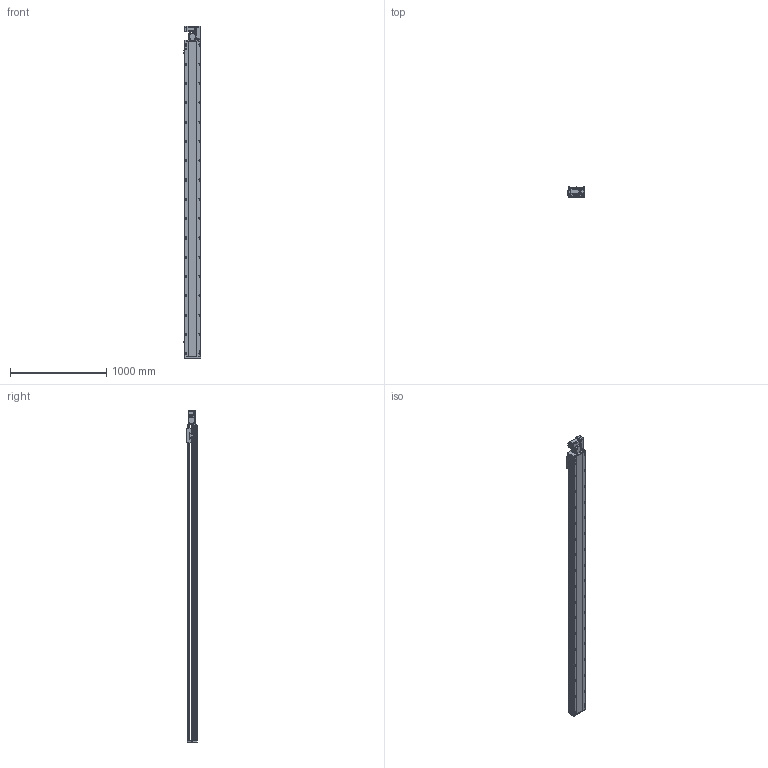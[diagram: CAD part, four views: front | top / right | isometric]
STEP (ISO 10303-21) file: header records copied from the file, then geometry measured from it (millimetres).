
FILE_DESCRIPTION (( 'STEP AP214' ), '1' );
FILE_NAME ('RTB17S-XX-3000-R-M40-C4.STEP', '2025-12-11T07:57:37', ( '' ), ( '' ), 'SwSTEP 2.0', 'SolidWorks 2018', '' );
FILE_SCHEMA (( 'AUTOMOTIVE_DESIGN' ));
Length unit declared in the file: millimetre
Products named in the file (14): RTB14-L-018P^RTB17S-R-々湍釱蚾饜-400W_RTB17S-XX-XX-R-M40-C4; RTH13-BL-012覜茼え俋离^RTB17S-XX-XX-R-M40-C4; RTB14-L-005P--轴承塑胶压盖^RTB17S-R-皮带座装配-400W_RTB17S-XX-XX-R-M40-C4; RTB14-L-008-M20--萇儂啣^RTB17S-R-々湍釱蚾饜-400W_RTB17S-XX-XX-R-M40-C4; RTB17S-L-014-T20--々湍釱^RTB17S-R-々湍釱蚾饜-400W_RTB17S-XX-XX-R-M40-C4; RTB17S-L-004佪裝蹟譫蟀諉釱^RTB17S-XX-XX-R-M40-C4; RTB17-R-011菁釱^RTB17S-XX-XX-R-M40-C4; RTB14-L-017P^RTB17S-R-々湍釱蚾饜-400W_RTB17S-XX-XX-R-M40-C4; RTB17S-L-001耜醱啣^RTB17S-XX-XX-R-M40-C4; RTB17S-L-007奻裔^RTB17S-XX-XX-R-M40-C4; OMRON EE-SX672 传感器^RTB17S-XX-XX-R-M40-C4; RTB17S-XX-3000-R-M40-C4; 400W侜督萇儂^RTB17S-XX-XX-R-M40-C4; RTB17S-R-々湍釱蚾饜-400W^RTB17S-XX-XX-R-M40-C4
Assembly tree (16 placements, depth 3):
  RTB17S-XX-3000-R-M40-C4
    RTB17-R-011菁釱^RTB17S-XX-XX-R-M40-C4
    RTB17S-L-007奻裔^RTB17S-XX-XX-R-M40-C4
    OMRON EE-SX672 传感器^RTB17S-XX-XX-R-M40-C4  x3
    RTB17S-L-001耜醱啣^RTB17S-XX-XX-R-M40-C4
    400W侜督萇儂^RTB17S-XX-XX-R-M40-C4
    RTB17S-L-004佪裝蹟譫蟀諉釱^RTB17S-XX-XX-R-M40-C4
    RTH13-BL-012覜茼え俋离^RTB17S-XX-XX-R-M40-C4
    RTB17S-R-々湍釱蚾饜-400W^RTB17S-XX-XX-R-M40-C4
      RTB17S-L-014-T20--々湍釱^RTB17S-R-々湍釱蚾饜-400W_RTB17S-XX-XX-R-M40-C4
      RTB14-L-005P--轴承塑胶压盖^RTB17S-R-皮带座装配-400W_RTB17S-XX-XX-R-M40-C4
      RTB14-L-008-M20--萇儂啣^RTB17S-R-々湍釱蚾饜-400W_RTB17S-XX-XX-R-M40-C4
      RTB14-L-017P^RTB17S-R-々湍釱蚾饜-400W_RTB17S-XX-XX-R-M40-C4  x2
      RTB14-L-018P^RTB17S-R-々湍釱蚾饜-400W_RTB17S-XX-XX-R-M40-C4
Bounding box: 183.5 x 108 x 3441 mm (x, y, z)
Volume: 28686796 mm3; surface area: 3275748.3 mm2
Topology: 15 solids, 15 shells, 2365 faces, 6627 edges, 4329 vertices
Faces by surface type: plane 1088, cylinder 829, bspline 301, cone 139, torus 8
Entity records: 70313 total; most frequent: CARTESIAN_POINT 20032, ORIENTED_EDGE 10098, DIRECTION 9296, EDGE_CURVE 5049, VERTEX_POINT 3317, AXIS2_PLACEMENT_3D 3247, VECTOR 2802, LINE 2802
